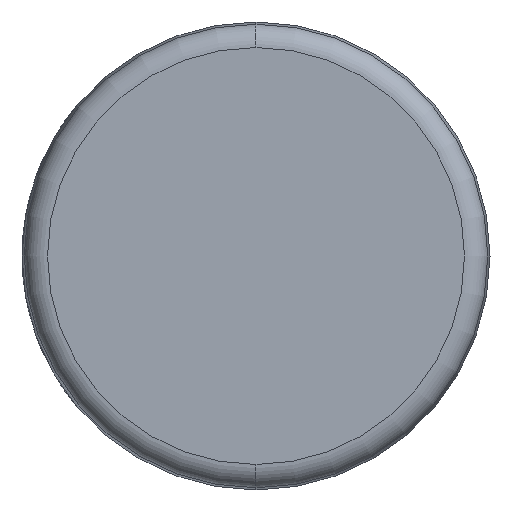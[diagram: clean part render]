
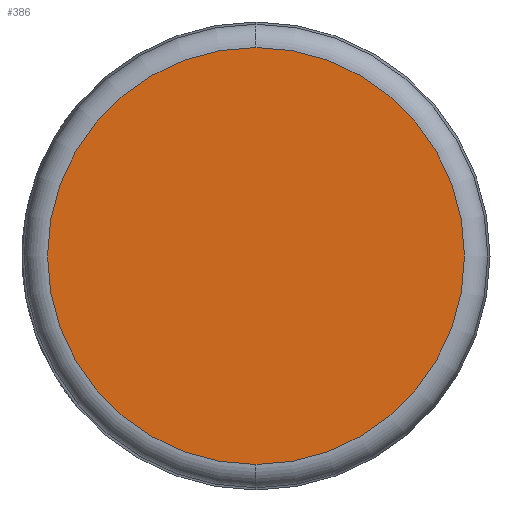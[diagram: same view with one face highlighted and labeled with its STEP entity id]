
A CAD part, left-side view. The second image highlights one B-rep face of the part: STEP entity #386.
In plain terms, the highlighted planar face has unit normal (-1, 0, 0).
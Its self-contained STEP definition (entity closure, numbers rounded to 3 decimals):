
#29 = ORIENTED_EDGE ( 'NONE', *, *, #406, .T. ) ;
#48 = CIRCLE ( 'NONE', #399, 22.272 ) ;
#101 = FACE_OUTER_BOUND ( 'NONE', #281, .T. ) ;
#138 = ORIENTED_EDGE ( 'NONE', *, *, #284, .T. ) ;
#159 = VERTEX_POINT ( 'NONE', #431 ) ;
#165 = DIRECTION ( 'NONE',  ( 1., 0., 0. ) ) ;
#186 = CARTESIAN_POINT ( 'NONE',  ( 0., 0., 22.272 ) ) ;
#204 = CARTESIAN_POINT ( 'NONE',  ( 0., 0., 0. ) ) ;
#222 = CARTESIAN_POINT ( 'NONE',  ( 0., 0., 0. ) ) ;
#237 = DIRECTION ( 'NONE',  ( -1., 0., 0. ) ) ;
#242 = AXIS2_PLACEMENT_3D ( 'NONE', #222, #165, #501 ) ;
#281 = EDGE_LOOP ( 'NONE', ( #29, #138 ) ) ;
#284 = EDGE_CURVE ( 'NONE', #378, #159, #557, .T. ) ;
#354 = DIRECTION ( 'NONE',  ( 0., 0., -1. ) ) ;
#378 = VERTEX_POINT ( 'NONE', #186 ) ;
#386 = ADVANCED_FACE ( 'NONE', ( #101 ), #553, .F. ) ;
#399 = AXIS2_PLACEMENT_3D ( 'NONE', #495, #508, #516 ) ;
#406 = EDGE_CURVE ( 'NONE', #159, #378, #48, .T. ) ;
#431 = CARTESIAN_POINT ( 'NONE',  ( 0., 0., -22.272 ) ) ;
#495 = CARTESIAN_POINT ( 'NONE',  ( 0., 0., 0. ) ) ;
#501 = DIRECTION ( 'NONE',  ( 0., 0., -1. ) ) ;
#508 = DIRECTION ( 'NONE',  ( -1., 0., 0. ) ) ;
#516 = DIRECTION ( 'NONE',  ( 0., 0., -1. ) ) ;
#553 = PLANE ( 'NONE',  #242 ) ;
#557 = CIRCLE ( 'NONE', #564, 22.272 ) ;
#564 = AXIS2_PLACEMENT_3D ( 'NONE', #204, #237, #354 ) ;
